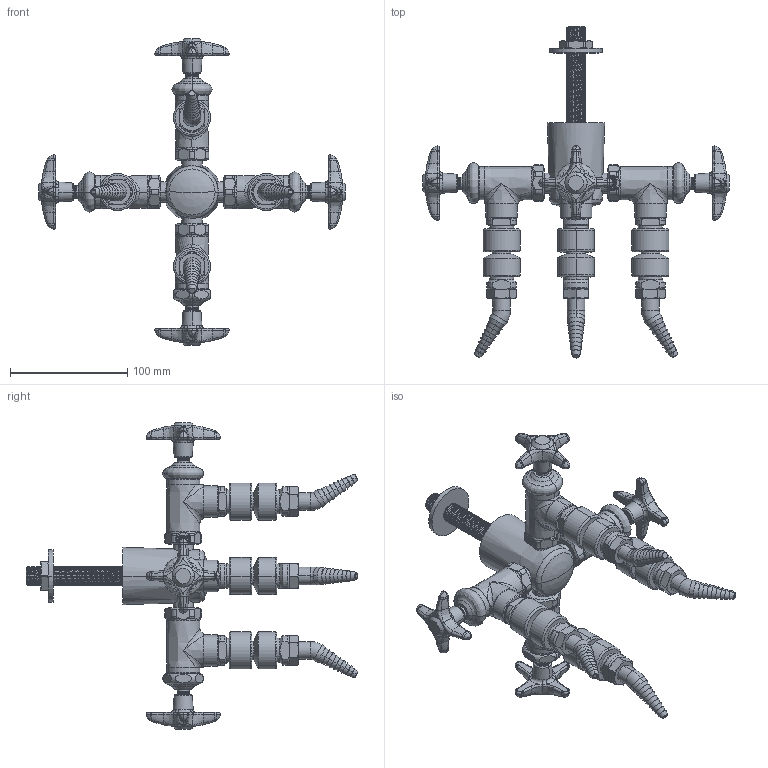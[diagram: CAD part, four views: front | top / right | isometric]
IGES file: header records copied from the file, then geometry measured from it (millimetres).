
Start section:  PTC IGES file: LWV2-C54-40.igs
Global section: file name: LWV2-C54-40.igs; native system: Creo Parametric by PTC Inc.; preprocessor: 2014500; author: usch_engrender; organization: Unknown; date: 20151117.102936; units: inch
Bounding box: 261.52 x 283.24 x 261.52 mm (x, y, z)
Volume: 568739.9 mm3; surface area: 138646.7 mm2
Topology: 1 solids, 7 shells, 2372 faces, 5479 edges, 3231 vertices
Faces by surface type: bspline 1269, revolution 1103
